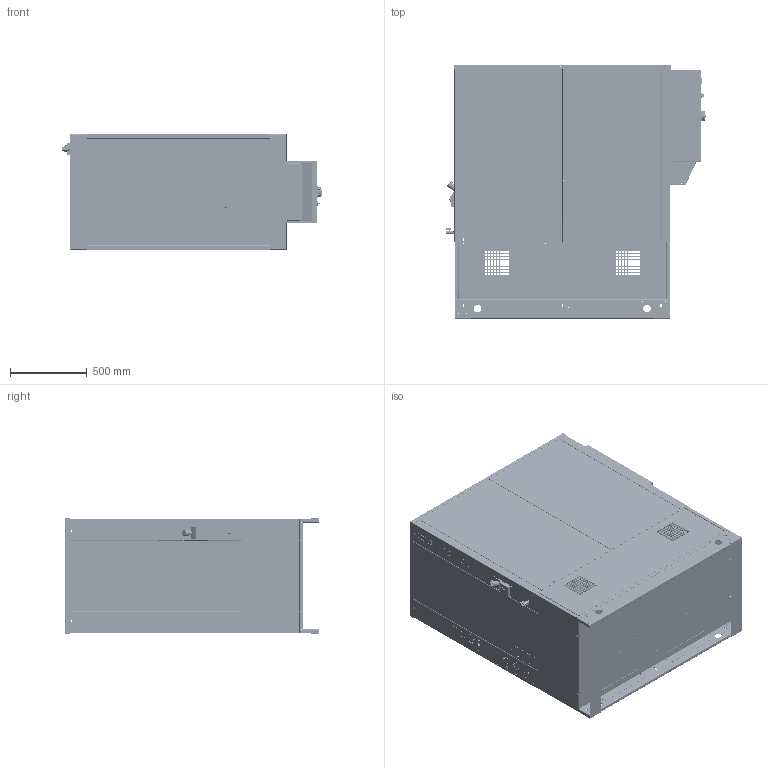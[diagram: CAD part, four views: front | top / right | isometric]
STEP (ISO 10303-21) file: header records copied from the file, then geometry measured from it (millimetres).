
FILE_DESCRIPTION (( 'STEP AP203' ), '1' );
FILE_NAME ('W-SCW_F3H_UL_REV_00.STEP', '2026-07-22T13:37:04', ( '' ), ( '' ), 'SwSTEP 2.0', 'SolidWorks 2023', '' );
FILE_SCHEMA (( 'CONFIG_CONTROL_DESIGN' ));
Length unit declared in the file: millimetre
Products named in the file (42): VR-3D-00004_002; CR-3F-00006_001B; VR-2F-00011_000; VA-A5-00001; VR-3D-00035_000; SE-RR-00025_000; 50-3F-00003; VR-3F-00003_002; CR-2D-00004_001; VR-2F-00008_003; VR-3F-00011_000; CR-3F-00007_004; VR-3F-00010_000; SE-RP-00013; VR-2F-00005_003; CR-3D-00010_001; VR-2F-00010_000; VR-2D-00034_001; CR-2F-00008_000; CASSA UL 600X400X200; CR-3F-00009_001; TAPPO 1P  FEM ; RIVELOX M5; CR-3F-00005_002; CR-3F-00006_001A; VR-2D-00036_000; VR-2F-00006_003; CR-3F-00008_001; VR-3F-00009_000; FILETTO_RUBINETTO_VA-A5-00001; SELETTORE_NERO; VR-3F-00007_000; VR-3F-00002_002; SEZIONATORE-GR_D2; VR-2F-00007_004; ING_TC_M5X25; TE-EL-00018; IN-VI-00001; CR-3F-00006_001; W-SCW_F3H_UL_REV_00
Assembly tree (82 placements, depth 3):
  W-SCW_F3H_UL_REV_00
    VR-2F-00005_003
    VR-2F-00006_003
    VR-2F-00007_004
    VR-2F-00008_003
    VR-2F-00010_000
    VR-2F-00011_000
    CR-3F-00008_001  x2
    CR-3F-00009_001
    CR-3F-00005_002
    VR-3F-00010_000
    CR-3F-00007_004
    VR-3F-00002_002  x3
    CR-2D-00004_001  x2
    CR-3D-00010_001
    CR-2F-00008_000
    CR-3F-00006_001
      CR-3F-00006_001A
      CR-3F-00006_001B
    ING_TC_M5X25  x2
    VR-3F-00011_000
    50-3F-00003
      VR-3F-00007_000
      VR-2D-00036_000  x2
      VR-3D-00035_000  x4
      VR-3D-00004_002
      VR-3F-00009_000  x2
    VR-3F-00003_002
      VR-3F-00003_002
      RIVELOX M5  x32
    IN-VI-00001
    TAPPO 1P  FEM 
    SE-RP-00013
    FILETTO_RUBINETTO_VA-A5-00001
    VA-A5-00001
    CASSA UL 600X400X200
      CASSA UL 600X400X200
      VR-2D-00034_001
      SE-RR-00025_000
      TE-EL-00018
      SELETTORE_NERO
      SEZIONATORE-GR_D2
Bounding box: 1698.19 x 1658.2 x 757 mm (x, y, z)
Volume: 77908912.5 mm3; surface area: 32831205.6 mm2
Topology: 230 solids, 323 shells, 10534 faces, 27561 edges, 17576 vertices
Faces by surface type: plane 7098, cylinder 2654, cone 364, bspline 300, torus 61, sphere 57
Entity records: 312310 total; most frequent: CARTESIAN_POINT 84433, ORIENTED_EDGE 46350, DIRECTION 43836, EDGE_CURVE 23395, LINE 16812, VECTOR 16812, VERTEX_POINT 14946, AXIS2_PLACEMENT_3D 13512
